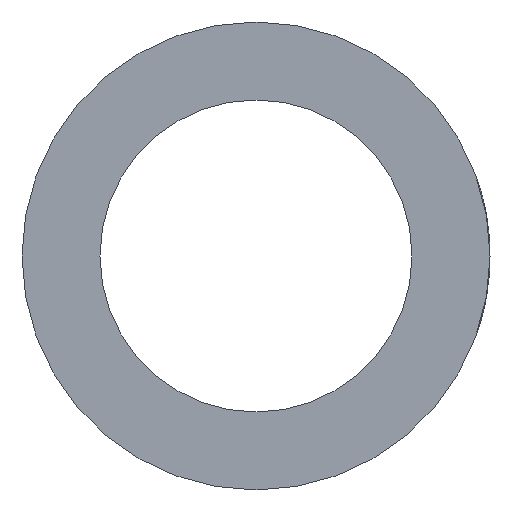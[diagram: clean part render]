
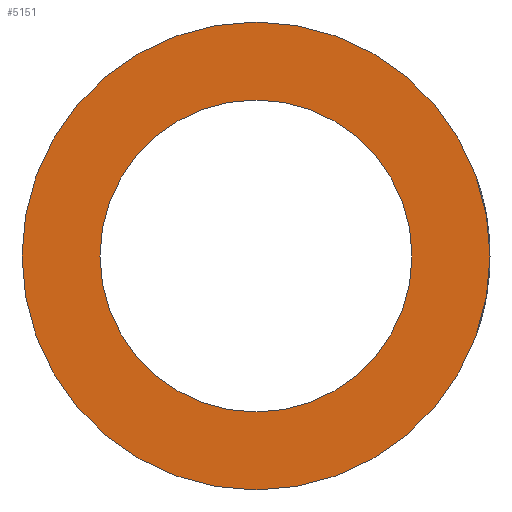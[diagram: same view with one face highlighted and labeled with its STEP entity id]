
A CAD part, left-side view. The second image highlights one B-rep face of the part: STEP entity #5151.
In plain terms, the highlighted planar face has unit normal (-1, 0, 0).
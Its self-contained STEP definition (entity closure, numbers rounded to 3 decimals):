
#116=PLANE('',#5551);
#354=CIRCLE('',#5550,37.5);
#355=CIRCLE('',#5552,25.);
#1542=ORIENTED_EDGE('',*,*,#3096,.T.);
#1543=ORIENTED_EDGE('',*,*,#3095,.F.);
#3095=EDGE_CURVE('',#3872,#3872,#354,.T.);
#3096=EDGE_CURVE('',#3873,#3873,#355,.T.);
#3872=VERTEX_POINT('',#8203);
#3873=VERTEX_POINT('',#8206);
#4389=EDGE_LOOP('',(#1542));
#4390=EDGE_LOOP('',(#1543));
#4764=FACE_BOUND('',#4389,.T.);
#4765=FACE_BOUND('',#4390,.T.);
#5151=ADVANCED_FACE('',(#4764,#4765),#116,.F.);
#5550=AXIS2_PLACEMENT_3D('',#8202,#6083,#6084);
#5551=AXIS2_PLACEMENT_3D('',#8204,#6085,#6086);
#5552=AXIS2_PLACEMENT_3D('',#8205,#6087,#6088);
#6083=DIRECTION('',(1.,0.,0.));
#6084=DIRECTION('',(0.,0.,-1.));
#6085=DIRECTION('',(1.,0.,0.));
#6086=DIRECTION('',(0.,0.,-1.));
#6087=DIRECTION('',(1.,0.,0.));
#6088=DIRECTION('',(0.,0.,-1.));
#8202=CARTESIAN_POINT('',(-50.,0.,0.));
#8203=CARTESIAN_POINT('',(-50.,0.,-37.5));
#8204=CARTESIAN_POINT('',(-50.,0.,0.));
#8205=CARTESIAN_POINT('',(-50.,0.,0.));
#8206=CARTESIAN_POINT('',(-50.,0.,-25.));
